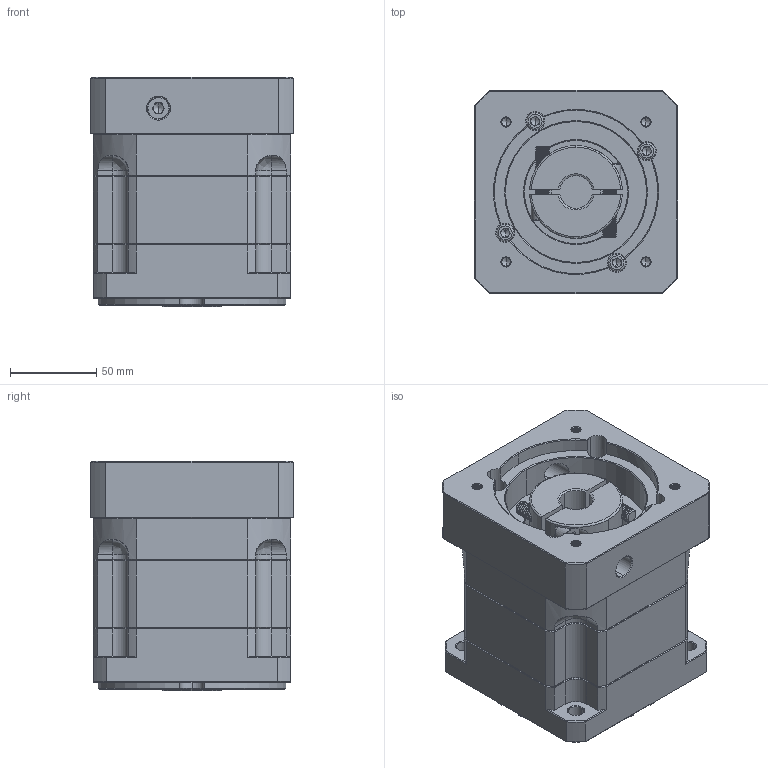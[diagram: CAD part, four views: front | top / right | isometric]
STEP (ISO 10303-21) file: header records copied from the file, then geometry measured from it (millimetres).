
FILE_DESCRIPTION (( 'STEP AP214' ), '1' );
FILE_NAME ('ZB115A-K25-L1-19-95-115-M6.step', '2023-03-02T09:03:13', ( '' ), ( 'Microsoft' ), 'SwSTEP 2.0', 'SolidWorks 2016', '' );
FILE_SCHEMA (( 'AUTOMOTIVE_DESIGN' ));
Length unit declared in the file: millimetre
Products named in the file (1): ZB115A-K25-L1-19-95-115-M6
Bounding box: 118 x 118 x 133.5 mm (x, y, z)
Volume: 1422597.4 mm3; surface area: 158877.3 mm2
Topology: 6 solids, 6 shells, 2049 faces, 5322 edges, 3364 vertices
Faces by surface type: plane 957, cylinder 379, cone 377, bspline 336
Entity records: 105109 total; most frequent: CARTESIAN_POINT 34950, ORIENTED_EDGE 10580, DIRECTION 8779, EDGE_CURVE 5290, VERTEX_POINT 3364, LINE 3309, VECTOR 3309, AXIS2_PLACEMENT_3D 2735
